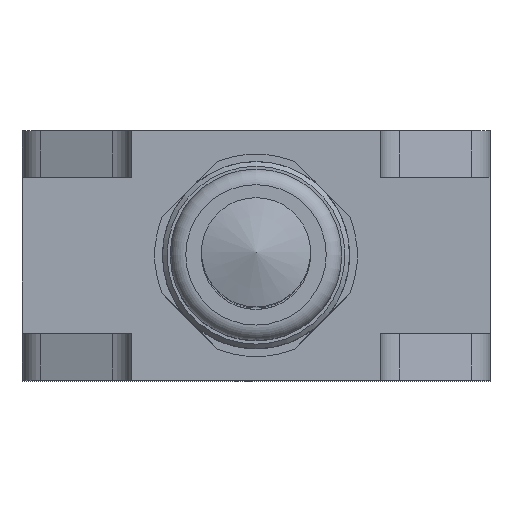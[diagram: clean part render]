
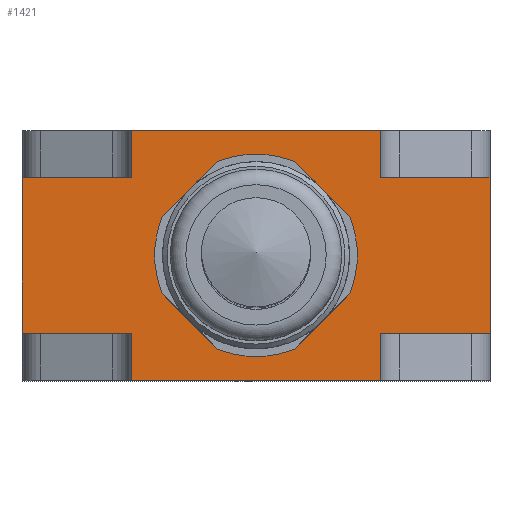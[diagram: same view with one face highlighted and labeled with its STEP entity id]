
A CAD part, top view. The second image highlights one B-rep face of the part: STEP entity #1421.
In plain terms, the highlighted planar face has unit normal (0, 0, 1).
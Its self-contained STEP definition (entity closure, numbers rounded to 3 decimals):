
#42=FACE_BOUND('',#293,.T.);
#62=CIRCLE('',#1510,6.5);
#64=CIRCLE('',#1514,6.5);
#66=CIRCLE('',#1518,6.5);
#68=CIRCLE('',#1522,6.5);
#201=FACE_OUTER_BOUND('',#292,.T.);
#292=EDGE_LOOP('',(#1079,#1080,#1081,#1082,#1083,#1084,#1085,#1086,#1087,
#1088,#1089,#1090));
#293=EDGE_LOOP('',(#1091,#1092,#1093,#1094,#1095,#1096,#1097,#1098));
#349=LINE('',#2110,#458);
#361=LINE('',#2163,#470);
#365=LINE('',#2175,#474);
#369=LINE('',#2187,#478);
#373=LINE('',#2198,#482);
#379=LINE('',#2223,#488);
#382=LINE('',#2228,#491);
#386=LINE('',#2243,#495);
#397=LINE('',#2278,#506);
#406=LINE('',#2298,#515);
#410=LINE('',#2308,#519);
#412=LINE('',#2311,#521);
#413=LINE('',#2315,#522);
#416=LINE('',#2320,#525);
#417=LINE('',#2322,#526);
#419=LINE('',#2326,#528);
#458=VECTOR('',#1666,10.);
#470=VECTOR('',#1722,5.);
#474=VECTOR('',#1734,5.);
#478=VECTOR('',#1746,5.);
#482=VECTOR('',#1758,5.);
#488=VECTOR('',#1788,7.);
#491=VECTOR('',#1793,3.);
#495=VECTOR('',#1807,16.);
#506=VECTOR('',#1838,7.);
#515=VECTOR('',#1859,10.);
#519=VECTOR('',#1869,7.);
#521=VECTOR('',#1873,3.);
#522=VECTOR('',#1878,3.);
#525=VECTOR('',#1883,3.);
#526=VECTOR('',#1886,7.);
#528=VECTOR('',#1892,16.);
#566=VERTEX_POINT('',#2107);
#567=VERTEX_POINT('',#2109);
#582=VERTEX_POINT('',#2153);
#583=VERTEX_POINT('',#2154);
#586=VERTEX_POINT('',#2162);
#588=VERTEX_POINT('',#2168);
#590=VERTEX_POINT('',#2174);
#592=VERTEX_POINT('',#2180);
#594=VERTEX_POINT('',#2186);
#596=VERTEX_POINT('',#2192);
#604=VERTEX_POINT('',#2221);
#605=VERTEX_POINT('',#2226);
#610=VERTEX_POINT('',#2240);
#611=VERTEX_POINT('',#2242);
#624=VERTEX_POINT('',#2275);
#625=VERTEX_POINT('',#2277);
#630=VERTEX_POINT('',#2296);
#633=VERTEX_POINT('',#2306);
#634=VERTEX_POINT('',#2314);
#635=VERTEX_POINT('',#2318);
#696=EDGE_CURVE('',#566,#567,#349,.T.);
#718=EDGE_CURVE('',#582,#583,#62,.T.);
#722=EDGE_CURVE('',#583,#586,#361,.T.);
#725=EDGE_CURVE('',#586,#588,#64,.T.);
#728=EDGE_CURVE('',#588,#590,#365,.T.);
#731=EDGE_CURVE('',#590,#592,#66,.T.);
#734=EDGE_CURVE('',#592,#594,#369,.T.);
#737=EDGE_CURVE('',#594,#596,#68,.T.);
#740=EDGE_CURVE('',#596,#582,#373,.T.);
#750=EDGE_CURVE('',#566,#604,#379,.T.);
#753=EDGE_CURVE('',#604,#605,#382,.T.);
#760=EDGE_CURVE('',#611,#610,#386,.T.);
#777=EDGE_CURVE('',#625,#624,#397,.T.);
#788=EDGE_CURVE('',#624,#630,#406,.T.);
#793=EDGE_CURVE('',#630,#633,#410,.T.);
#795=EDGE_CURVE('',#633,#611,#412,.T.);
#796=EDGE_CURVE('',#634,#625,#413,.T.);
#799=EDGE_CURVE('',#610,#635,#416,.T.);
#800=EDGE_CURVE('',#635,#567,#417,.T.);
#802=EDGE_CURVE('',#605,#634,#419,.T.);
#1079=ORIENTED_EDGE('',*,*,#795,.T.);
#1080=ORIENTED_EDGE('',*,*,#760,.T.);
#1081=ORIENTED_EDGE('',*,*,#799,.T.);
#1082=ORIENTED_EDGE('',*,*,#800,.T.);
#1083=ORIENTED_EDGE('',*,*,#696,.F.);
#1084=ORIENTED_EDGE('',*,*,#750,.T.);
#1085=ORIENTED_EDGE('',*,*,#753,.T.);
#1086=ORIENTED_EDGE('',*,*,#802,.T.);
#1087=ORIENTED_EDGE('',*,*,#796,.T.);
#1088=ORIENTED_EDGE('',*,*,#777,.T.);
#1089=ORIENTED_EDGE('',*,*,#788,.T.);
#1090=ORIENTED_EDGE('',*,*,#793,.T.);
#1091=ORIENTED_EDGE('',*,*,#718,.T.);
#1092=ORIENTED_EDGE('',*,*,#722,.T.);
#1093=ORIENTED_EDGE('',*,*,#725,.T.);
#1094=ORIENTED_EDGE('',*,*,#728,.T.);
#1095=ORIENTED_EDGE('',*,*,#731,.T.);
#1096=ORIENTED_EDGE('',*,*,#734,.T.);
#1097=ORIENTED_EDGE('',*,*,#737,.T.);
#1098=ORIENTED_EDGE('',*,*,#740,.T.);
#1302=PLANE('',#1568);
#1421=ADVANCED_FACE('',(#201,#42),#1302,.T.);
#1510=AXIS2_PLACEMENT_3D('',#2155,#1714,#1715);
#1514=AXIS2_PLACEMENT_3D('',#2169,#1727,#1728);
#1518=AXIS2_PLACEMENT_3D('',#2181,#1739,#1740);
#1522=AXIS2_PLACEMENT_3D('',#2193,#1751,#1752);
#1568=AXIS2_PLACEMENT_3D('',#2325,#1890,#1891);
#1666=DIRECTION('',(0.,-1.,0.));
#1714=DIRECTION('center_axis',(0.,0.,-1.));
#1715=DIRECTION('ref_axis',(0.981,-0.194,0.));
#1722=DIRECTION('',(-0.707,-0.707,0.));
#1727=DIRECTION('center_axis',(0.,0.,-1.));
#1728=DIRECTION('ref_axis',(0.,-1.,0.));
#1734=DIRECTION('',(-0.707,0.707,0.));
#1739=DIRECTION('center_axis',(0.,0.,-1.));
#1740=DIRECTION('ref_axis',(-0.981,0.194,0.));
#1746=DIRECTION('',(0.707,0.707,0.));
#1751=DIRECTION('center_axis',(0.,0.,-1.));
#1752=DIRECTION('ref_axis',(0.,1.,0.));
#1758=DIRECTION('',(0.707,-0.707,0.));
#1788=DIRECTION('',(-1.,0.,0.));
#1793=DIRECTION('',(0.,1.,0.));
#1807=DIRECTION('',(1.,0.,0.));
#1838=DIRECTION('',(-1.,0.,0.));
#1859=DIRECTION('',(0.,-1.,0.));
#1869=DIRECTION('',(1.,0.,0.));
#1873=DIRECTION('',(0.,-1.,0.));
#1878=DIRECTION('',(0.,-1.,0.));
#1883=DIRECTION('',(0.,1.,0.));
#1886=DIRECTION('',(1.,0.,0.));
#1890=DIRECTION('center_axis',(0.,0.,1.));
#1891=DIRECTION('ref_axis',(0.,-1.,0.));
#1892=DIRECTION('',(-1.,0.,0.));
#2107=CARTESIAN_POINT('',(15.,-3.,9.));
#2109=CARTESIAN_POINT('',(15.,-13.,9.));
#2110=CARTESIAN_POINT('',(15.,-3.,9.));
#2153=CARTESIAN_POINT('',(6.01,-5.525,9.));
#2154=CARTESIAN_POINT('',(6.01,-10.475,9.));
#2155=CARTESIAN_POINT('Origin',(0.,-8.,9.));
#2162=CARTESIAN_POINT('',(2.475,-14.01,9.));
#2163=CARTESIAN_POINT('',(6.01,-10.475,9.));
#2168=CARTESIAN_POINT('',(-2.475,-14.01,9.));
#2169=CARTESIAN_POINT('Origin',(0.,-8.,9.));
#2174=CARTESIAN_POINT('',(-6.01,-10.475,9.));
#2175=CARTESIAN_POINT('',(-2.475,-14.01,9.));
#2180=CARTESIAN_POINT('',(-6.01,-5.525,9.));
#2181=CARTESIAN_POINT('Origin',(0.,-8.,9.));
#2186=CARTESIAN_POINT('',(-2.475,-1.99,9.));
#2187=CARTESIAN_POINT('',(-6.01,-5.525,9.));
#2192=CARTESIAN_POINT('',(2.475,-1.99,9.));
#2193=CARTESIAN_POINT('Origin',(0.,-8.,9.));
#2198=CARTESIAN_POINT('',(2.475,-1.99,9.));
#2221=CARTESIAN_POINT('',(8.,-3.,9.));
#2223=CARTESIAN_POINT('',(15.,-3.,9.));
#2226=CARTESIAN_POINT('',(8.,0.,9.));
#2228=CARTESIAN_POINT('',(8.,-3.,9.));
#2240=CARTESIAN_POINT('',(8.,-16.,9.));
#2242=CARTESIAN_POINT('',(-8.,-16.,9.));
#2243=CARTESIAN_POINT('',(-8.,-16.,9.));
#2275=CARTESIAN_POINT('',(-15.,-3.,9.));
#2277=CARTESIAN_POINT('',(-8.,-3.,9.));
#2278=CARTESIAN_POINT('',(-8.,-3.,9.));
#2296=CARTESIAN_POINT('',(-15.,-13.,9.));
#2298=CARTESIAN_POINT('',(-15.,-3.,9.));
#2306=CARTESIAN_POINT('',(-8.,-13.,9.));
#2308=CARTESIAN_POINT('',(-15.,-13.,9.));
#2311=CARTESIAN_POINT('',(-8.,-13.,9.));
#2314=CARTESIAN_POINT('',(-8.,0.,9.));
#2315=CARTESIAN_POINT('',(-8.,0.,9.));
#2318=CARTESIAN_POINT('',(8.,-13.,9.));
#2320=CARTESIAN_POINT('',(8.,-16.,9.));
#2322=CARTESIAN_POINT('',(8.,-13.,9.));
#2325=CARTESIAN_POINT('Origin',(-15.,0.,9.));
#2326=CARTESIAN_POINT('',(8.,0.,9.));
